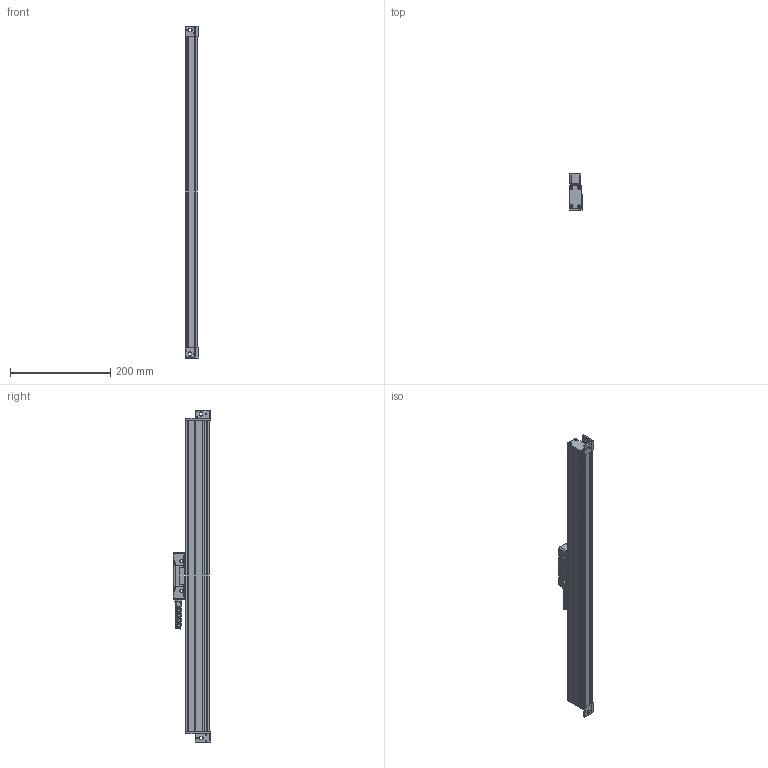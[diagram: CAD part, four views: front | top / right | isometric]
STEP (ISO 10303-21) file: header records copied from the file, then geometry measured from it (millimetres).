
FILE_DESCRIPTION (( 'STEP AP214' ), '1' );
FILE_NAME ('MLC310x0500.STEP', '2021-05-08T11:49:53', ( '' ), ( '' ), 'SwSTEP 2.0', 'SolidWorks 2014', '' );
FILE_SCHEMA (( 'AUTOMOTIVE_DESIGN' ));
Length unit declared in the file: millimetre
Products named in the file (1): MLC310x0500
Bounding box: 27 x 75.15 x 664 mm (x, y, z)
Surface area: 126131.5 mm2 (no closed solid volume)
Topology: 0 solids, 23 shells, 434 faces, 1649 edges, 1225 vertices
Faces by surface type: plane 179, cylinder 141, cone 79, bspline 25, torus 10
Entity records: 32704 total; most frequent: CARTESIAN_POINT 14123, DIRECTION 2833, ORIENTED_EDGE 2683, EDGE_CURVE 1645, VERTEX_POINT 1225, AXIS2_PLACEMENT_3D 989, LINE 855, VECTOR 855
